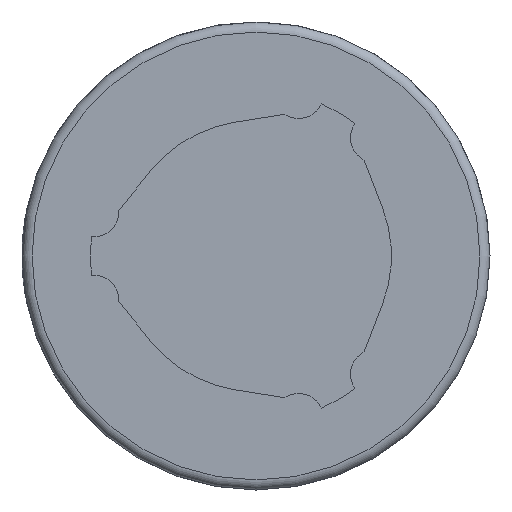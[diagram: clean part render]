
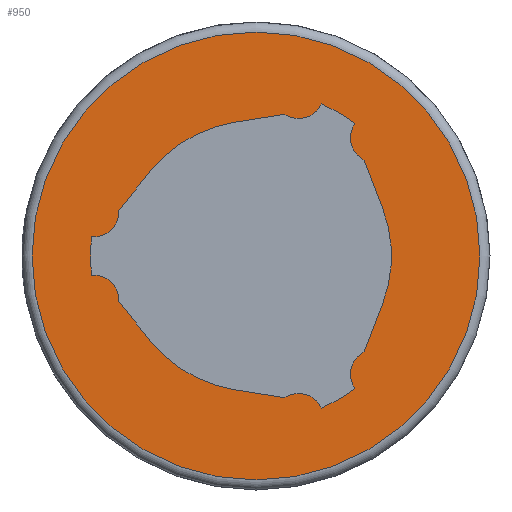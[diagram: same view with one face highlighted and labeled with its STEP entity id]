
A CAD part, left-side view. The second image highlights one B-rep face of the part: STEP entity #950.
In plain terms, the highlighted planar face has unit normal (-1, 0, 0).
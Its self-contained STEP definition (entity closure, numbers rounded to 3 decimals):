
#48=PLANE('',#1057);
#92=LINE('',#1550,#162);
#93=LINE('',#1559,#163);
#94=LINE('',#1563,#164);
#95=LINE('',#1571,#165);
#96=LINE('',#1575,#166);
#97=LINE('',#1583,#167);
#162=VECTOR('',#1255,1000.);
#163=VECTOR('',#1262,1000.);
#164=VECTOR('',#1265,1000.);
#165=VECTOR('',#1272,1000.);
#166=VECTOR('',#1275,1000.);
#167=VECTOR('',#1282,1000.);
#310=ORIENTED_EDGE('',*,*,#528,.F.);
#311=ORIENTED_EDGE('',*,*,#529,.T.);
#312=ORIENTED_EDGE('',*,*,#530,.F.);
#313=ORIENTED_EDGE('',*,*,#531,.T.);
#314=ORIENTED_EDGE('',*,*,#532,.F.);
#315=ORIENTED_EDGE('',*,*,#533,.T.);
#316=ORIENTED_EDGE('',*,*,#534,.T.);
#317=ORIENTED_EDGE('',*,*,#535,.T.);
#318=ORIENTED_EDGE('',*,*,#536,.F.);
#319=ORIENTED_EDGE('',*,*,#537,.T.);
#320=ORIENTED_EDGE('',*,*,#538,.F.);
#321=ORIENTED_EDGE('',*,*,#539,.T.);
#322=ORIENTED_EDGE('',*,*,#540,.T.);
#323=ORIENTED_EDGE('',*,*,#541,.T.);
#324=ORIENTED_EDGE('',*,*,#542,.F.);
#325=ORIENTED_EDGE('',*,*,#543,.T.);
#326=ORIENTED_EDGE('',*,*,#544,.F.);
#327=ORIENTED_EDGE('',*,*,#545,.T.);
#328=ORIENTED_EDGE('',*,*,#546,.T.);
#528=EDGE_CURVE('',#646,#646,#728,.T.);
#529=EDGE_CURVE('',#647,#648,#92,.T.);
#530=EDGE_CURVE('',#649,#648,#729,.T.);
#531=EDGE_CURVE('',#649,#650,#730,.T.);
#532=EDGE_CURVE('',#651,#650,#731,.T.);
#533=EDGE_CURVE('',#651,#652,#93,.T.);
#534=EDGE_CURVE('',#652,#653,#732,.T.);
#535=EDGE_CURVE('',#653,#654,#94,.T.);
#536=EDGE_CURVE('',#655,#654,#733,.T.);
#537=EDGE_CURVE('',#655,#656,#734,.T.);
#538=EDGE_CURVE('',#657,#656,#735,.T.);
#539=EDGE_CURVE('',#657,#658,#95,.T.);
#540=EDGE_CURVE('',#658,#659,#736,.T.);
#541=EDGE_CURVE('',#659,#660,#96,.T.);
#542=EDGE_CURVE('',#661,#660,#737,.T.);
#543=EDGE_CURVE('',#661,#662,#738,.T.);
#544=EDGE_CURVE('',#663,#662,#739,.T.);
#545=EDGE_CURVE('',#663,#664,#97,.T.);
#546=EDGE_CURVE('',#664,#647,#740,.T.);
#646=VERTEX_POINT('',#1549);
#647=VERTEX_POINT('',#1551);
#648=VERTEX_POINT('',#1552);
#649=VERTEX_POINT('',#1554);
#650=VERTEX_POINT('',#1556);
#651=VERTEX_POINT('',#1558);
#652=VERTEX_POINT('',#1560);
#653=VERTEX_POINT('',#1562);
#654=VERTEX_POINT('',#1564);
#655=VERTEX_POINT('',#1566);
#656=VERTEX_POINT('',#1568);
#657=VERTEX_POINT('',#1570);
#658=VERTEX_POINT('',#1572);
#659=VERTEX_POINT('',#1574);
#660=VERTEX_POINT('',#1576);
#661=VERTEX_POINT('',#1578);
#662=VERTEX_POINT('',#1580);
#663=VERTEX_POINT('',#1582);
#664=VERTEX_POINT('',#1584);
#728=CIRCLE('',#1058,67.);
#729=CIRCLE('',#1059,7.43);
#730=CIRCLE('',#1060,49.5);
#731=CIRCLE('',#1061,7.43);
#732=CIRCLE('',#1062,40.5);
#733=CIRCLE('',#1063,7.43);
#734=CIRCLE('',#1064,49.5);
#735=CIRCLE('',#1065,7.43);
#736=CIRCLE('',#1066,40.5);
#737=CIRCLE('',#1067,7.43);
#738=CIRCLE('',#1068,49.5);
#739=CIRCLE('',#1069,7.43);
#740=CIRCLE('',#1070,40.5);
#783=EDGE_LOOP('',(#310));
#784=EDGE_LOOP('',(#311,#312,#313,#314,#315,#316,#317,#318,#319,#320,#321,
#322,#323,#324,#325,#326,#327,#328));
#851=FACE_BOUND('',#783,.T.);
#852=FACE_BOUND('',#784,.T.);
#950=ADVANCED_FACE('',(#851,#852),#48,.F.);
#1057=AXIS2_PLACEMENT_3D('',#1547,#1251,#1252);
#1058=AXIS2_PLACEMENT_3D('',#1548,#1253,#1254);
#1059=AXIS2_PLACEMENT_3D('',#1553,#1256,#1257);
#1060=AXIS2_PLACEMENT_3D('',#1555,#1258,#1259);
#1061=AXIS2_PLACEMENT_3D('',#1557,#1260,#1261);
#1062=AXIS2_PLACEMENT_3D('',#1561,#1263,#1264);
#1063=AXIS2_PLACEMENT_3D('',#1565,#1266,#1267);
#1064=AXIS2_PLACEMENT_3D('',#1567,#1268,#1269);
#1065=AXIS2_PLACEMENT_3D('',#1569,#1270,#1271);
#1066=AXIS2_PLACEMENT_3D('',#1573,#1273,#1274);
#1067=AXIS2_PLACEMENT_3D('',#1577,#1276,#1277);
#1068=AXIS2_PLACEMENT_3D('',#1579,#1278,#1279);
#1069=AXIS2_PLACEMENT_3D('',#1581,#1280,#1281);
#1070=AXIS2_PLACEMENT_3D('',#1585,#1283,#1284);
#1251=DIRECTION('',(1.,0.,0.));
#1252=DIRECTION('',(0.,0.,-1.));
#1253=DIRECTION('',(1.,0.,0.));
#1254=DIRECTION('',(0.,0.,-1.));
#1255=DIRECTION('',(0.,-0.988,0.156));
#1256=DIRECTION('',(1.,0.,0.));
#1257=DIRECTION('',(0.,0.,-1.));
#1258=DIRECTION('',(1.,0.,0.));
#1259=DIRECTION('',(0.,0.,-1.));
#1260=DIRECTION('',(1.,0.,0.));
#1261=DIRECTION('',(0.,0.,-1.));
#1262=DIRECTION('',(0.,-0.358,-0.934));
#1263=DIRECTION('',(1.,0.,0.));
#1264=DIRECTION('',(0.,0.,-1.));
#1265=DIRECTION('',(0.,0.358,-0.934));
#1266=DIRECTION('',(1.,0.,0.));
#1267=DIRECTION('',(0.,0.,-1.));
#1268=DIRECTION('',(1.,0.,0.));
#1269=DIRECTION('',(0.,0.,-1.));
#1270=DIRECTION('',(1.,0.,0.));
#1271=DIRECTION('',(0.,0.,-1.));
#1272=DIRECTION('',(0.,0.988,0.156));
#1273=DIRECTION('',(1.,0.,0.));
#1274=DIRECTION('',(0.,0.,-1.));
#1275=DIRECTION('',(0.,0.629,0.777));
#1276=DIRECTION('',(1.,0.,0.));
#1277=DIRECTION('',(0.,0.,-1.));
#1278=DIRECTION('',(1.,0.,0.));
#1279=DIRECTION('',(0.,0.,-1.));
#1280=DIRECTION('',(1.,0.,0.));
#1281=DIRECTION('',(0.,0.,-1.));
#1282=DIRECTION('',(0.,-0.629,0.777));
#1283=DIRECTION('',(1.,0.,0.));
#1284=DIRECTION('',(0.,0.,-1.));
#1547=CARTESIAN_POINT('',(0.,0.,0.));
#1548=CARTESIAN_POINT('',(0.,0.,0.));
#1549=CARTESIAN_POINT('',(0.,0.,-67.));
#1550=CARTESIAN_POINT('',(0.,6.336,40.001));
#1551=CARTESIAN_POINT('',(0.,6.336,40.001));
#1552=CARTESIAN_POINT('',(0.,-8.663,42.377));
#1553=CARTESIAN_POINT('',(0.,-12.791,48.555));
#1554=CARTESIAN_POINT('',(0.,-19.553,45.475));
#1555=CARTESIAN_POINT('',(0.,0.,0.));
#1556=CARTESIAN_POINT('',(0.,-29.606,39.671));
#1557=CARTESIAN_POINT('',(0.,-35.654,35.355));
#1558=CARTESIAN_POINT('',(0.,-32.368,28.691));
#1559=CARTESIAN_POINT('',(0.,-32.368,28.691));
#1560=CARTESIAN_POINT('',(0.,-37.81,14.514));
#1561=CARTESIAN_POINT('',(0.,0.,0.));
#1562=CARTESIAN_POINT('',(0.,-37.81,-14.514));
#1563=CARTESIAN_POINT('',(0.,-37.81,-14.514));
#1564=CARTESIAN_POINT('',(0.,-32.368,-28.691));
#1565=CARTESIAN_POINT('',(0.,-35.654,-35.355));
#1566=CARTESIAN_POINT('',(0.,-29.606,-39.671));
#1567=CARTESIAN_POINT('',(0.,0.,0.));
#1568=CARTESIAN_POINT('',(0.,-19.553,-45.475));
#1569=CARTESIAN_POINT('',(0.,-12.791,-48.555));
#1570=CARTESIAN_POINT('',(0.,-8.663,-42.377));
#1571=CARTESIAN_POINT('',(0.,-8.663,-42.377));
#1572=CARTESIAN_POINT('',(0.,6.336,-40.001));
#1573=CARTESIAN_POINT('',(0.,0.,0.));
#1574=CARTESIAN_POINT('',(0.,31.474,-25.487));
#1575=CARTESIAN_POINT('',(0.,31.474,-25.487));
#1576=CARTESIAN_POINT('',(0.,41.031,-13.686));
#1577=CARTESIAN_POINT('',(0.,48.445,-13.2));
#1578=CARTESIAN_POINT('',(0.,49.159,-5.804));
#1579=CARTESIAN_POINT('',(0.,0.,0.));
#1580=CARTESIAN_POINT('',(0.,49.159,5.804));
#1581=CARTESIAN_POINT('',(0.,48.445,13.2));
#1582=CARTESIAN_POINT('',(0.,41.031,13.686));
#1583=CARTESIAN_POINT('',(0.,41.031,13.686));
#1584=CARTESIAN_POINT('',(0.,31.474,25.487));
#1585=CARTESIAN_POINT('',(0.,0.,0.));
